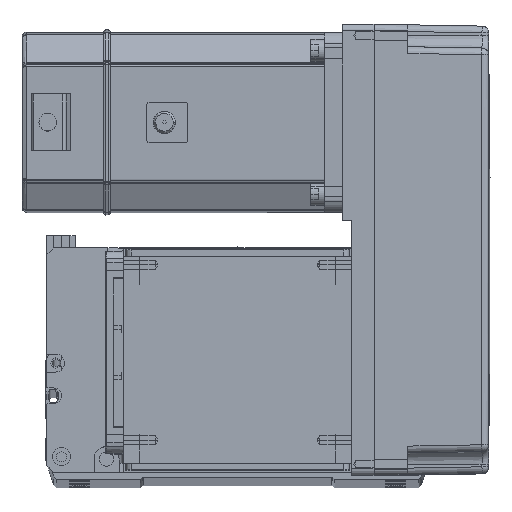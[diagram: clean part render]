
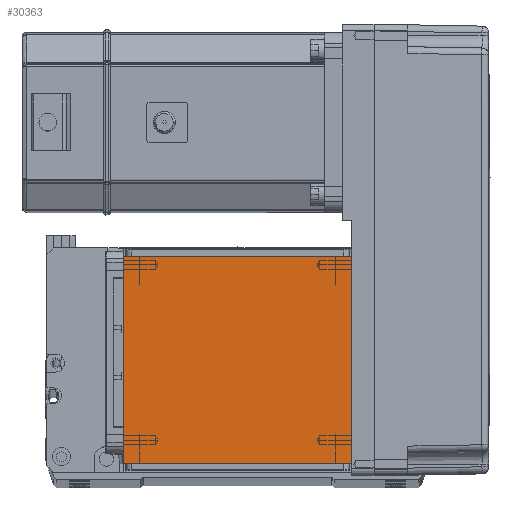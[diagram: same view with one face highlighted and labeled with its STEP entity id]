
A CAD part, top view. The second image highlights one B-rep face of the part: STEP entity #30363.
In plain terms, the highlighted planar face has unit normal (0, 0, 1).
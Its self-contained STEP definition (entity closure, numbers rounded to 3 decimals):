
#3700 = VECTOR ( 'NONE', #56854, 1000. ) ;
#4239 = ORIENTED_EDGE ( 'NONE', *, *, #31490, .T. ) ;
#7565 = VECTOR ( 'NONE', #32044, 1000. ) ;
#8347 = CARTESIAN_POINT ( 'NONE',  ( -70.004, 111.5, 115. ) ) ;
#8428 = VERTEX_POINT ( 'NONE', #30203 ) ;
#8915 = CARTESIAN_POINT ( 'NONE',  ( -70.004, 20., 115. ) ) ;
#10259 = CARTESIAN_POINT ( 'NONE',  ( -50.5, 122., 115. ) ) ;
#17069 = CARTESIAN_POINT ( 'NONE',  ( 50.5, 122., 115. ) ) ;
#20223 = EDGE_CURVE ( 'NONE', #8428, #23941, #33522, .T. ) ;
#22028 = LINE ( 'NONE', #17069, #7565 ) ;
#22866 = PLANE ( 'NONE',  #48950 ) ;
#23941 = VERTEX_POINT ( 'NONE', #61841 ) ;
#27105 = VECTOR ( 'NONE', #35069, 1000. ) ;
#27501 = DIRECTION ( 'NONE',  ( 1., 0., 0. ) ) ;
#28273 = VECTOR ( 'NONE', #42241, 1000. ) ;
#30203 = CARTESIAN_POINT ( 'NONE',  ( 50.5, 20., 115. ) ) ;
#30363 = ADVANCED_FACE ( 'NONE', ( #50726 ), #22866, .T. ) ;
#31490 = EDGE_CURVE ( 'NONE', #56626, #23941, #39962, .T. ) ;
#32044 = DIRECTION ( 'NONE',  ( 0., 1., 0. ) ) ;
#33014 = CARTESIAN_POINT ( 'NONE',  ( 50.5, 111.5, 115. ) ) ;
#33522 = LINE ( 'NONE', #8915, #28273 ) ;
#35069 = DIRECTION ( 'NONE',  ( 0., -1., 0. ) ) ;
#36518 = EDGE_LOOP ( 'NONE', ( #59030, #4239, #61104, #47456 ) ) ;
#39962 = LINE ( 'NONE', #10259, #27105 ) ;
#41804 = EDGE_CURVE ( 'NONE', #8428, #58208, #22028, .T. ) ;
#42241 = DIRECTION ( 'NONE',  ( -1., 0., 0. ) ) ;
#47456 = ORIENTED_EDGE ( 'NONE', *, *, #41804, .T. ) ;
#47638 = LINE ( 'NONE', #8347, #3700 ) ;
#48950 = AXIS2_PLACEMENT_3D ( 'NONE', #56886, #61727, #27501 ) ;
#50726 = FACE_OUTER_BOUND ( 'NONE', #36518, .T. ) ;
#53344 = EDGE_CURVE ( 'NONE', #56626, #58208, #47638, .T. ) ;
#56626 = VERTEX_POINT ( 'NONE', #59578 ) ;
#56854 = DIRECTION ( 'NONE',  ( 1., 0., 0. ) ) ;
#56886 = CARTESIAN_POINT ( 'NONE',  ( 0., 0., 115. ) ) ;
#58208 = VERTEX_POINT ( 'NONE', #33014 ) ;
#59030 = ORIENTED_EDGE ( 'NONE', *, *, #53344, .F. ) ;
#59578 = CARTESIAN_POINT ( 'NONE',  ( -50.5, 111.5, 115. ) ) ;
#61104 = ORIENTED_EDGE ( 'NONE', *, *, #20223, .F. ) ;
#61727 = DIRECTION ( 'NONE',  ( 0., 0., 1. ) ) ;
#61841 = CARTESIAN_POINT ( 'NONE',  ( -50.5, 20., 115. ) ) ;
